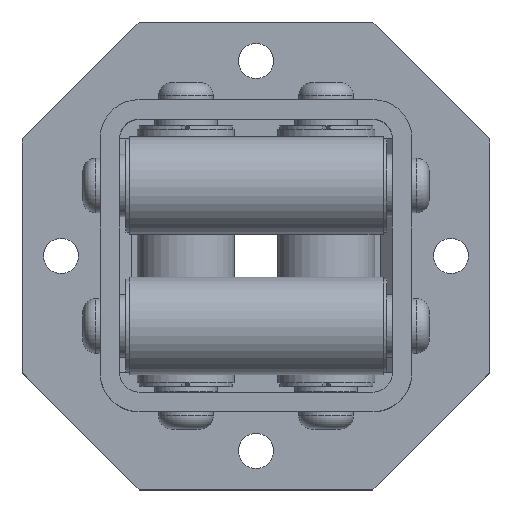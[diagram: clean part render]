
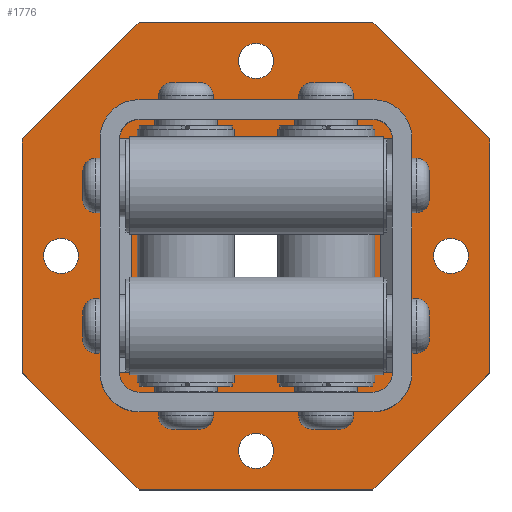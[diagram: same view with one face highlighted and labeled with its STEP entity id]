
A CAD part, top view. The second image highlights one B-rep face of the part: STEP entity #1776.
In plain terms, the highlighted planar face has unit normal (0, 0, 1).
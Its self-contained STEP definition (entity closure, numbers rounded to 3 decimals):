
#143=FACE_BOUND('',#459,.T.);
#144=FACE_BOUND('',#460,.T.);
#145=FACE_BOUND('',#461,.T.);
#146=FACE_BOUND('',#462,.T.);
#147=FACE_BOUND('',#463,.T.);
#179=CIRCLE('',#2029,22.5);
#181=CIRCLE('',#2032,4.5);
#182=CIRCLE('',#2033,4.5);
#184=CIRCLE('',#2036,4.5);
#185=CIRCLE('',#2037,4.5);
#187=CIRCLE('',#2040,4.5);
#188=CIRCLE('',#2041,4.5);
#190=CIRCLE('',#2044,4.5);
#191=CIRCLE('',#2045,4.5);
#364=FACE_OUTER_BOUND('',#458,.T.);
#458=EDGE_LOOP('',(#1317,#1318,#1319,#1320,#1321,#1322,#1323,#1324));
#459=EDGE_LOOP('',(#1325));
#460=EDGE_LOOP('',(#1326,#1327));
#461=EDGE_LOOP('',(#1328,#1329));
#462=EDGE_LOOP('',(#1330,#1331));
#463=EDGE_LOOP('',(#1332,#1333));
#590=LINE('',#2921,#718);
#593=LINE('',#2927,#721);
#596=LINE('',#2933,#724);
#599=LINE('',#2939,#727);
#602=LINE('',#2945,#730);
#605=LINE('',#2951,#733);
#608=LINE('',#2957,#736);
#611=LINE('',#2961,#739);
#718=VECTOR('',#2337,10.);
#721=VECTOR('',#2342,10.);
#724=VECTOR('',#2347,10.);
#727=VECTOR('',#2352,10.);
#730=VECTOR('',#2357,10.);
#733=VECTOR('',#2362,10.);
#736=VECTOR('',#2367,10.);
#739=VECTOR('',#2372,10.);
#833=VERTEX_POINT('',#2877);
#835=VERTEX_POINT('',#2883);
#836=VERTEX_POINT('',#2884);
#838=VERTEX_POINT('',#2891);
#839=VERTEX_POINT('',#2892);
#841=VERTEX_POINT('',#2899);
#842=VERTEX_POINT('',#2900);
#844=VERTEX_POINT('',#2907);
#845=VERTEX_POINT('',#2908);
#849=VERTEX_POINT('',#2918);
#850=VERTEX_POINT('',#2920);
#852=VERTEX_POINT('',#2926);
#854=VERTEX_POINT('',#2932);
#856=VERTEX_POINT('',#2938);
#858=VERTEX_POINT('',#2944);
#860=VERTEX_POINT('',#2950);
#862=VERTEX_POINT('',#2956);
#1005=EDGE_CURVE('',#833,#833,#179,.T.);
#1008=EDGE_CURVE('',#835,#836,#181,.T.);
#1009=EDGE_CURVE('',#836,#835,#182,.T.);
#1012=EDGE_CURVE('',#838,#839,#184,.T.);
#1013=EDGE_CURVE('',#839,#838,#185,.T.);
#1016=EDGE_CURVE('',#841,#842,#187,.T.);
#1017=EDGE_CURVE('',#842,#841,#188,.T.);
#1020=EDGE_CURVE('',#844,#845,#190,.T.);
#1021=EDGE_CURVE('',#845,#844,#191,.T.);
#1026=EDGE_CURVE('',#850,#849,#590,.T.);
#1029=EDGE_CURVE('',#852,#850,#593,.T.);
#1032=EDGE_CURVE('',#854,#852,#596,.T.);
#1035=EDGE_CURVE('',#856,#854,#599,.T.);
#1038=EDGE_CURVE('',#858,#856,#602,.T.);
#1041=EDGE_CURVE('',#860,#858,#605,.T.);
#1044=EDGE_CURVE('',#862,#860,#608,.T.);
#1047=EDGE_CURVE('',#849,#862,#611,.T.);
#1317=ORIENTED_EDGE('',*,*,#1047,.T.);
#1318=ORIENTED_EDGE('',*,*,#1044,.T.);
#1319=ORIENTED_EDGE('',*,*,#1041,.T.);
#1320=ORIENTED_EDGE('',*,*,#1038,.T.);
#1321=ORIENTED_EDGE('',*,*,#1035,.T.);
#1322=ORIENTED_EDGE('',*,*,#1032,.T.);
#1323=ORIENTED_EDGE('',*,*,#1029,.T.);
#1324=ORIENTED_EDGE('',*,*,#1026,.T.);
#1325=ORIENTED_EDGE('',*,*,#1005,.T.);
#1326=ORIENTED_EDGE('',*,*,#1008,.T.);
#1327=ORIENTED_EDGE('',*,*,#1009,.T.);
#1328=ORIENTED_EDGE('',*,*,#1012,.T.);
#1329=ORIENTED_EDGE('',*,*,#1013,.T.);
#1330=ORIENTED_EDGE('',*,*,#1016,.T.);
#1331=ORIENTED_EDGE('',*,*,#1017,.T.);
#1332=ORIENTED_EDGE('',*,*,#1020,.T.);
#1333=ORIENTED_EDGE('',*,*,#1021,.T.);
#1719=PLANE('',#2055);
#1776=ADVANCED_FACE('',(#364,#143,#144,#145,#146,#147),#1719,.T.);
#2029=AXIS2_PLACEMENT_3D('',#2878,#2292,#2293);
#2032=AXIS2_PLACEMENT_3D('',#2885,#2299,#2300);
#2033=AXIS2_PLACEMENT_3D('',#2886,#2301,#2302);
#2036=AXIS2_PLACEMENT_3D('',#2893,#2308,#2309);
#2037=AXIS2_PLACEMENT_3D('',#2894,#2310,#2311);
#2040=AXIS2_PLACEMENT_3D('',#2901,#2317,#2318);
#2041=AXIS2_PLACEMENT_3D('',#2902,#2319,#2320);
#2044=AXIS2_PLACEMENT_3D('',#2909,#2326,#2327);
#2045=AXIS2_PLACEMENT_3D('',#2910,#2328,#2329);
#2055=AXIS2_PLACEMENT_3D('',#2962,#2373,#2374);
#2292=DIRECTION('center_axis',(0.,0.,-1.));
#2293=DIRECTION('ref_axis',(-1.,0.,0.));
#2299=DIRECTION('center_axis',(0.,0.,-1.));
#2300=DIRECTION('ref_axis',(1.,0.,0.));
#2301=DIRECTION('center_axis',(0.,0.,-1.));
#2302=DIRECTION('ref_axis',(1.,0.,0.));
#2308=DIRECTION('center_axis',(0.,0.,-1.));
#2309=DIRECTION('ref_axis',(1.,0.,0.));
#2310=DIRECTION('center_axis',(0.,0.,-1.));
#2311=DIRECTION('ref_axis',(1.,0.,0.));
#2317=DIRECTION('center_axis',(0.,0.,-1.));
#2318=DIRECTION('ref_axis',(1.,0.,0.));
#2319=DIRECTION('center_axis',(0.,0.,-1.));
#2320=DIRECTION('ref_axis',(1.,0.,0.));
#2326=DIRECTION('center_axis',(0.,0.,-1.));
#2327=DIRECTION('ref_axis',(1.,0.,0.));
#2328=DIRECTION('center_axis',(0.,0.,-1.));
#2329=DIRECTION('ref_axis',(1.,0.,0.));
#2337=DIRECTION('',(-0.707,0.707,0.));
#2342=DIRECTION('',(0.,1.,0.));
#2347=DIRECTION('',(0.707,0.707,0.));
#2352=DIRECTION('',(1.,0.,0.));
#2357=DIRECTION('',(0.707,-0.707,0.));
#2362=DIRECTION('',(0.,-1.,0.));
#2367=DIRECTION('',(-0.707,-0.707,0.));
#2372=DIRECTION('',(-1.,0.,0.));
#2373=DIRECTION('center_axis',(0.,0.,1.));
#2374=DIRECTION('ref_axis',(1.,0.,0.));
#2877=CARTESIAN_POINT('',(22.5,0.,8.));
#2878=CARTESIAN_POINT('Origin',(0.,0.,8.));
#2883=CARTESIAN_POINT('',(4.5,50.,8.));
#2884=CARTESIAN_POINT('',(-4.5,50.,8.));
#2885=CARTESIAN_POINT('Origin',(0.,50.,8.));
#2886=CARTESIAN_POINT('Origin',(0.,50.,8.));
#2891=CARTESIAN_POINT('',(-45.5,0.,8.));
#2892=CARTESIAN_POINT('',(-54.5,0.,8.));
#2893=CARTESIAN_POINT('Origin',(-50.,0.,8.));
#2894=CARTESIAN_POINT('Origin',(-50.,0.,8.));
#2899=CARTESIAN_POINT('',(54.5,0.,8.));
#2900=CARTESIAN_POINT('',(45.5,0.,8.));
#2901=CARTESIAN_POINT('Origin',(50.,0.,8.));
#2902=CARTESIAN_POINT('Origin',(50.,0.,8.));
#2907=CARTESIAN_POINT('',(4.5,-50.,8.));
#2908=CARTESIAN_POINT('',(-4.5,-50.,8.));
#2909=CARTESIAN_POINT('Origin',(0.,-50.,8.));
#2910=CARTESIAN_POINT('Origin',(0.,-50.,8.));
#2918=CARTESIAN_POINT('',(30.,60.,8.));
#2920=CARTESIAN_POINT('',(60.,30.,8.));
#2921=CARTESIAN_POINT('',(60.,30.,8.));
#2926=CARTESIAN_POINT('',(60.,-30.,8.));
#2927=CARTESIAN_POINT('',(60.,-30.,8.));
#2932=CARTESIAN_POINT('',(30.,-60.,8.));
#2933=CARTESIAN_POINT('',(30.,-60.,8.));
#2938=CARTESIAN_POINT('',(-30.,-60.,8.));
#2939=CARTESIAN_POINT('',(-30.,-60.,8.));
#2944=CARTESIAN_POINT('',(-60.,-30.,8.));
#2945=CARTESIAN_POINT('',(-60.,-30.,8.));
#2950=CARTESIAN_POINT('',(-60.,30.,8.));
#2951=CARTESIAN_POINT('',(-60.,30.,8.));
#2956=CARTESIAN_POINT('',(-30.,60.,8.));
#2957=CARTESIAN_POINT('',(-30.,60.,8.));
#2961=CARTESIAN_POINT('',(30.,60.,8.));
#2962=CARTESIAN_POINT('Origin',(0.,0.,
8.));
